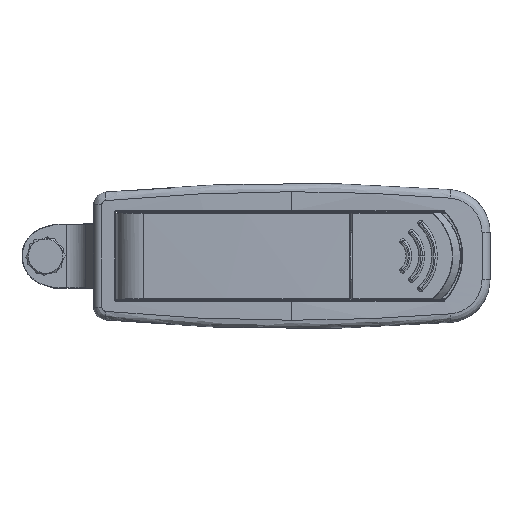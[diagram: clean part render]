
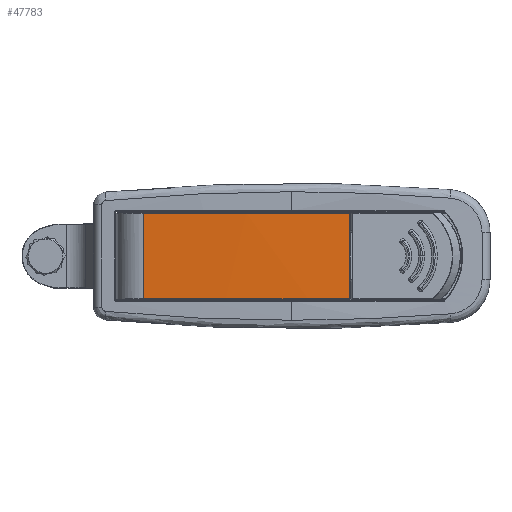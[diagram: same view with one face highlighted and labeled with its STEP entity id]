
A CAD part, top view. The second image highlights one B-rep face of the part: STEP entity #47783.
In plain terms, the highlighted cylindrical face has radius 630 mm (diameter 1260 mm), a partial arc.
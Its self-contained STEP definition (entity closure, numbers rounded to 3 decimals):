
#3366 = ORIENTED_EDGE ( 'NONE', *, *, #19344, .T. ) ;
#3890 = FACE_OUTER_BOUND ( 'NONE', #37442, .T. ) ;
#4149 =( BOUNDED_CURVE ( )  B_SPLINE_CURVE ( 3, ( #15556, #27384, #27615, #26878 ),
 .UNSPECIFIED., .F., .F. ) 
 B_SPLINE_CURVE_WITH_KNOTS ( ( 4, 4 ),
 ( 6.222, 6.283 ),
 .UNSPECIFIED. ) 
 CURVE ( )  GEOMETRIC_REPRESENTATION_ITEM ( )  RATIONAL_B_SPLINE_CURVE ( ( 1., 1., 1., 1. ) ) 
 REPRESENTATION_ITEM ( '' )  );
#4223 = VECTOR ( 'NONE', #36688, 1000. ) ;
#6003 = CARTESIAN_POINT ( 'NONE',  ( -48.252, 3.8, 10.15 ) ) ;
#6722 = DIRECTION ( 'NONE',  ( 0., 0., -1. ) ) ;
#7868 = CARTESIAN_POINT ( 'NONE',  ( -48.252, 3.8, -10.018 ) ) ;
#8205 = EDGE_CURVE ( 'NONE', #48210, #27836, #9407, .T. ) ;
#8480 = DIRECTION ( 'NONE',  ( -1., 0., 0. ) ) ;
#8714 = CYLINDRICAL_SURFACE ( 'NONE', #44183, 630. ) ;
#8762 = EDGE_CURVE ( 'NONE', #21404, #38280, #48225, .T. ) ;
#9407 = LINE ( 'NONE', #6003, #26982 ) ;
#9874 = CARTESIAN_POINT ( 'NONE',  ( -32.226, 4.781, -10.009 ) ) ;
#10603 = CARTESIAN_POINT ( 'NONE',  ( -3.339, 4.951, 10.008 ) ) ;
#11472 = ORIENTED_EDGE ( 'NONE', *, *, #8762, .T. ) ;
#11852 = CARTESIAN_POINT ( 'NONE',  ( -48.252, 3.8, 10.018 ) ) ;
#15556 = CARTESIAN_POINT ( 'NONE',  ( -48.252, 3.8, 10.018 ) ) ;
#17082 = CARTESIAN_POINT ( 'NONE',  ( -0.12, 4.902, -10.008 ) ) ;
#19344 = EDGE_CURVE ( 'NONE', #38280, #27836, #38422, .T. ) ;
#20362 = ORIENTED_EDGE ( 'NONE', *, *, #47158, .T. ) ;
#21404 = VERTEX_POINT ( 'NONE', #21848 ) ;
#21727 = ORIENTED_EDGE ( 'NONE', *, *, #46865, .T. ) ;
#21848 = CARTESIAN_POINT ( 'NONE',  ( -0.12, 4.902, 10.008 ) ) ;
#25193 = CARTESIAN_POINT ( 'NONE',  ( -9.778, 4.976, 10.007 ) ) ;
#25361 = CARTESIAN_POINT ( 'NONE',  ( -0.12, 4.902, 10.008 ) ) ;
#26878 = CARTESIAN_POINT ( 'NONE',  ( -9.778, 4.976, 10.007 ) ) ;
#26982 = VECTOR ( 'NONE', #6722, 1000. ) ;
#27384 = CARTESIAN_POINT ( 'NONE',  ( -35.442, 4.584, 10.011 ) ) ;
#27615 = CARTESIAN_POINT ( 'NONE',  ( -22.613, 4.976, 10.007 ) ) ;
#27836 = VERTEX_POINT ( 'NONE', #7868 ) ;
#28849 = CARTESIAN_POINT ( 'NONE',  ( -16.174, 5.148, -10.006 ) ) ;
#29306 = CARTESIAN_POINT ( 'NONE',  ( -0.12, 4.902, 10.15 ) ) ;
#30045 = CARTESIAN_POINT ( 'NONE',  ( -9.778, 4.976, 10.007 ) ) ;
#30310 = ORIENTED_EDGE ( 'NONE', *, *, #8205, .F. ) ;
#31819 = CARTESIAN_POINT ( 'NONE',  ( -0.12, 4.902, -10.008 ) ) ;
#36688 = DIRECTION ( 'NONE',  ( 0., 0., -1. ) ) ;
#37442 = EDGE_LOOP ( 'NONE', ( #30310, #21727, #20362, #11472, #3366 ) ) ;
#38280 = VERTEX_POINT ( 'NONE', #17082 ) ;
#38422 =( BOUNDED_CURVE ( )  B_SPLINE_CURVE ( 3, ( #31819, #28849, #9874, #47283 ),
 .UNSPECIFIED., .F., .F. ) 
 B_SPLINE_CURVE_WITH_KNOTS ( ( 4, 4 ),
 ( 3.126, 3.203 ),
 .UNSPECIFIED. ) 
 CURVE ( )  GEOMETRIC_REPRESENTATION_ITEM ( )  RATIONAL_B_SPLINE_CURVE ( ( 1., 1., 1., 1. ) ) 
 REPRESENTATION_ITEM ( '' )  );
#38760 = DIRECTION ( 'NONE',  ( 0., 0., -1. ) ) ;
#41006 = VERTEX_POINT ( 'NONE', #25193 ) ;
#41352 = CARTESIAN_POINT ( 'NONE',  ( -6.559, 4.976, 10.007 ) ) ;
#44084 =( BOUNDED_CURVE ( )  B_SPLINE_CURVE ( 3, ( #30045, #41352, #10603, #25361 ),
 .UNSPECIFIED., .F., .F. ) 
 B_SPLINE_CURVE_WITH_KNOTS ( ( 4, 4 ),
 ( 0., 0.015 ),
 .UNSPECIFIED. ) 
 CURVE ( )  GEOMETRIC_REPRESENTATION_ITEM ( )  RATIONAL_B_SPLINE_CURVE ( ( 1., 1., 1., 1. ) ) 
 REPRESENTATION_ITEM ( '' )  );
#44183 = AXIS2_PLACEMENT_3D ( 'NONE', #46361, #38760, #8480 ) ;
#46361 = CARTESIAN_POINT ( 'NONE',  ( -9.778, -625.024, 10.15 ) ) ;
#46865 = EDGE_CURVE ( 'NONE', #48210, #41006, #4149, .T. ) ;
#47158 = EDGE_CURVE ( 'NONE', #41006, #21404, #44084, .T. ) ;
#47283 = CARTESIAN_POINT ( 'NONE',  ( -48.252, 3.8, -10.018 ) ) ;
#47783 = ADVANCED_FACE ( 'NONE', ( #3890 ), #8714, .T. ) ;
#48210 = VERTEX_POINT ( 'NONE', #11852 ) ;
#48225 = LINE ( 'NONE', #29306, #4223 ) ;
